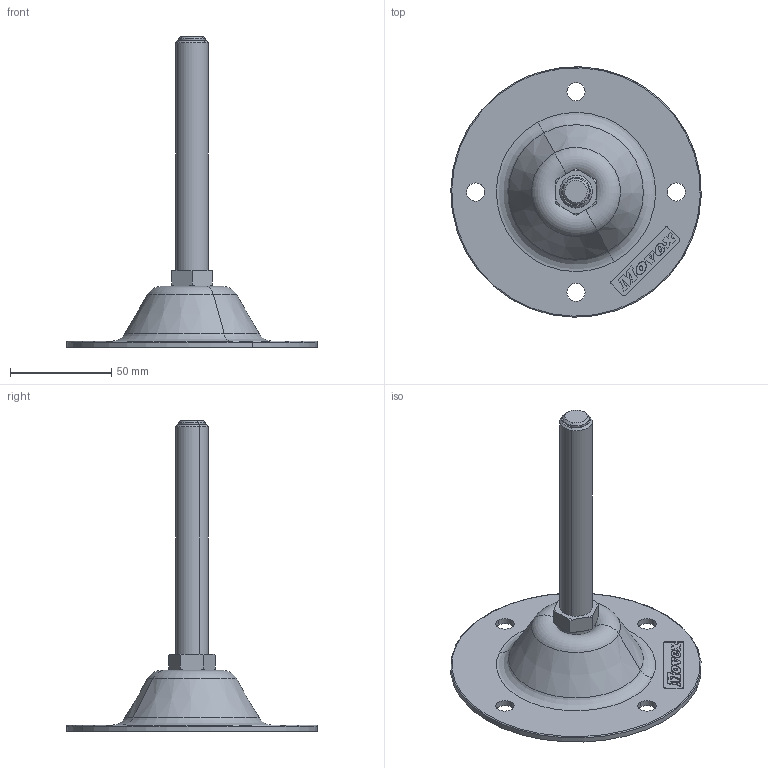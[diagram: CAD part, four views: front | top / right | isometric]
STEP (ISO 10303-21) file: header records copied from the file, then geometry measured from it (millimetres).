
FILE_DESCRIPTION(('CATIA V5 STEP Exchange'),'2;1');
FILE_NAME('X:\CODICI MOVEX\3D per clienti\3D definitivi\Part 900\P96001ZH_01.stp','2016-07-28T14:26:39+00:00',('none'),('none'),'Version 5-6 Release 2012','CATIA V5 STEP AP203','none');
FILE_SCHEMA(('CONFIG_CONTROL_DESIGN'));
Length unit declared in the file: millimetre
Products named in the file (1): P96001ZH_01
Assembly tree (4 placements, depth 2):
  P96001ZH_01
    #58
    #15574
    #16996
    #17199
Bounding box: 123.47 x 123.47 x 153 mm (x, y, z)
Volume: 70638.1 mm3; surface area: 38779 mm2
Topology: 4 solids, 4 shells, 560 faces, 1580 edges, 1038 vertices
Faces by surface type: plane 472, cone 34, cylinder 32, torus 18, revolution 4
Entity records: 17808 total; most frequent: CARTESIAN_POINT 3455, ORIENTED_EDGE 3152, DIRECTION 2582, EDGE_CURVE 1576, VECTOR 1392, LINE 1392, VERTEX_POINT 1038, AXIS2_PLACEMENT_3D 661
